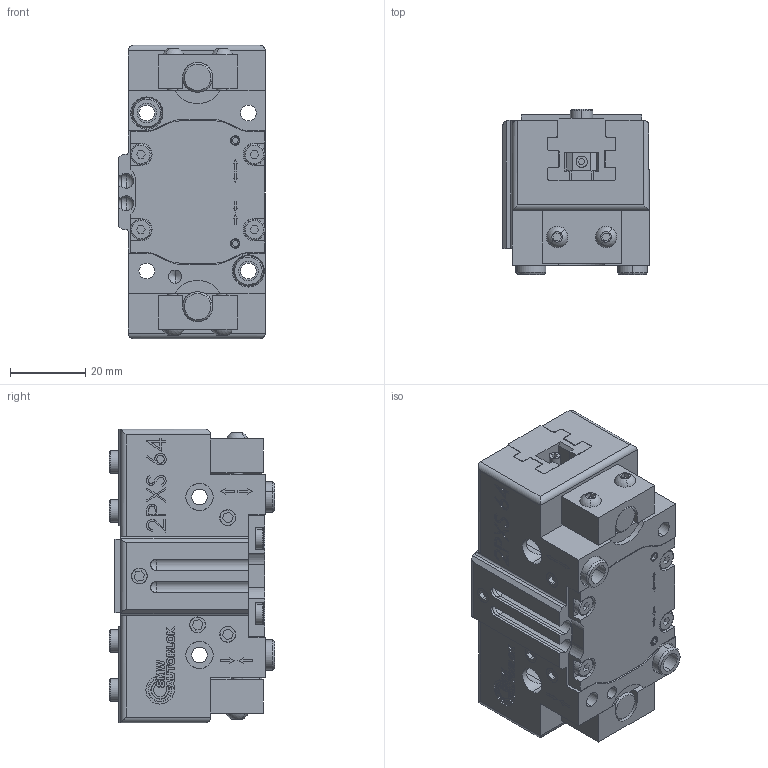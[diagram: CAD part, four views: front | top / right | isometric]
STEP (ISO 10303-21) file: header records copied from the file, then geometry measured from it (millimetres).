
FILE_DESCRIPTION (( 'STEP AP203' ), '1' );
FILE_NAME ('77901856_FULL OPEN 2PXS-N 64.STEP', '2024-02-22T11:01:26', ( '' ), ( '' ), 'SwSTEP 2.0', 'SolidWorks 2023', '' );
FILE_SCHEMA (( 'CONFIG_CONTROL_DESIGN' ));
Length unit declared in the file: millimetre
Products named in the file (44): 71113701_Semplice; 71112110_semplice; 90225763_a; 90035660; 71109624_Semplice; 71113803; 90235663; 77901856_FULL OPEN 2PXS-N 64; 90495663; 90305663; 90095663; 71113707_Semplice; 90045663; 90165663; 90405663_90405660; 90385663; 71119628_semplice; 90215663; 71842009; 90015663; 90225963_a; 71311232; 90285863; 71311222; 90025660; 71200507
Assembly tree (47 placements, depth 2):
  77901856_FULL OPEN 2PXS-N 64
    90015663
    90035660
    90095663
    90165663  x2
    90215663  x2
    90235663
    90285863  x4
    90385663
    90305663
    90405663_90405660
    90035660
    90225763_a  x2
    90225763_a
    90225963_a  x2
    90495663  x2
    71112110_semplice
    71119628_semplice
    71113701_Semplice
    71113701_Semplice
    71113701_Semplice
    71113701_Semplice
    71113803  x4
    71112110_semplice
    71112110_semplice
    71109624_Semplice
    71109624_Semplice
    71109624_Semplice
    71109624_Semplice
    71112110_semplice
    71112110_semplice
    71112110_semplice
    71112110_semplice
    90225763_a
    71112110_semplice
    71119628_semplice
    90235663
  71113707_Semplice
  90045663
  71842009
  71311232
Bounding box: 39 x 44 x 78 mm (x, y, z)
Volume: 56333.8 mm3; surface area: 43198 mm2
Topology: 54 solids, 54 shells, 2915 faces, 7719 edges, 5084 vertices
Faces by surface type: plane 1496, cylinder 991, bspline 281, cone 127, sphere 12, torus 8
Entity records: 108207 total; most frequent: CARTESIAN_POINT 33973, ORIENTED_EDGE 14834, DIRECTION 13886, EDGE_CURVE 7417, VERTEX_POINT 4898, LINE 4760, VECTOR 4760, AXIS2_PLACEMENT_3D 4563
